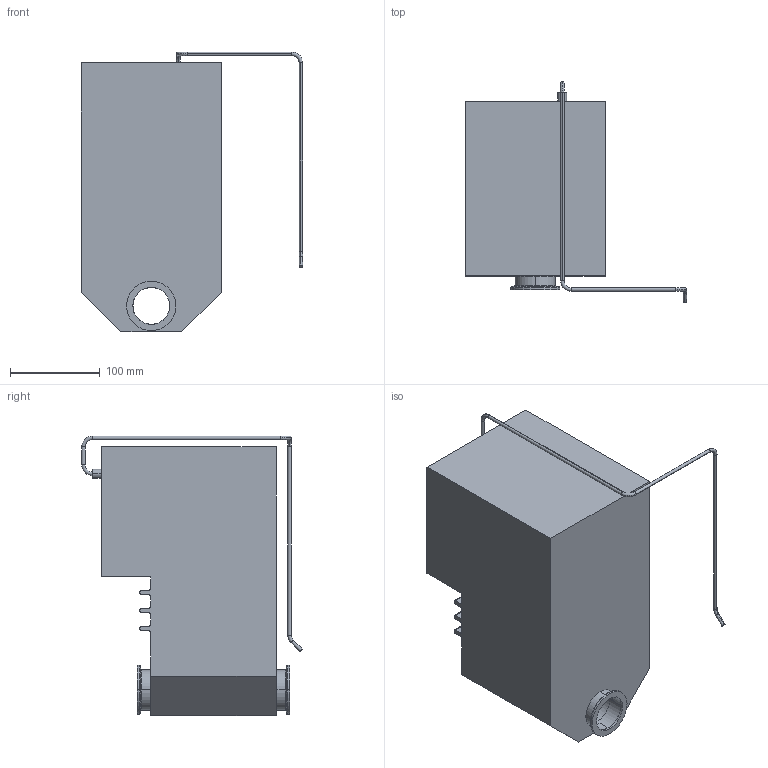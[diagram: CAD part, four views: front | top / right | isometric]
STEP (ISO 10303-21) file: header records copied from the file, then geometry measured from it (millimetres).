
FILE_DESCRIPTION((''),'2;1');
FILE_NAME('853012615_PMD_000_ASM','2008-02-12T',('L0108624'),('Copyright by Leybold GmbH'),'PRO/ENGINEER BY PARAMETRIC TECHNOLOGY CORPORATION, 2006510','PRO/ENGINEER BY PARAMETRIC TECHNOLOGY CORPORATION, 2006510','');
FILE_SCHEMA(('AUTOMOTIVE_DESIGN { 1 0 10303 214 1 1 1 1 }'));
Length unit declared in the file: millimetre
Products named in the file (3): 853012614_PMD_000; 853006042_PNR_000; 853012615_PMD_000_ASM
Assembly tree (3 placements, depth 2):
  853012615_PMD_000_ASM
    853012614_PMD_000
    853006042_PNR_000  x2
Bounding box: 246.75 x 246.26 x 312 mm (x, y, z)
Volume: 7400348.9 mm3; surface area: 298587.7 mm2
Topology: 3 solids, 3 shells, 100 faces, 260 edges, 172 vertices
Faces by surface type: cylinder 46, plane 32, torus 18, cone 4
Entity records: 2932 total; most frequent: DIRECTION 510, CARTESIAN_POINT 457, ORIENTED_EDGE 436, EDGE_CURVE 218, AXIS2_PLACEMENT_3D 203, VERTEX_POINT 144, CIRCLE 114, VECTOR 104
